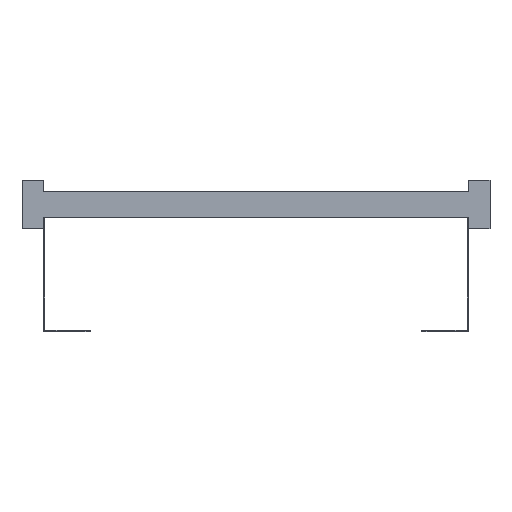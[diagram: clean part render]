
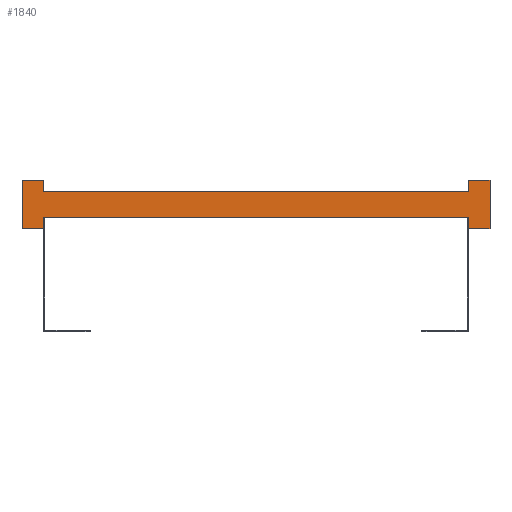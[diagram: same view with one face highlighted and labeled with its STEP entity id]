
A CAD part, front view. The second image highlights one B-rep face of the part: STEP entity #1840.
In plain terms, the highlighted planar face has unit normal (0, -1, 0).
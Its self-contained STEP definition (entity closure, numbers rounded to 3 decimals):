
#113=DIRECTION('',(0.,0.,1.));
#114=VECTOR('',#113,13.5);
#115=CARTESIAN_POINT('',(250.,0.,-28.5));
#116=LINE('',#115,#114);
#117=DIRECTION('',(0.,0.,-1.));
#118=VECTOR('',#117,13.5);
#119=CARTESIAN_POINT('',(-250.,0.,-15.));
#120=LINE('',#119,#118);
#121=DIRECTION('',(-1.,0.,0.));
#122=VECTOR('',#121,25.);
#123=CARTESIAN_POINT('',(-250.,0.,-28.5));
#124=LINE('',#123,#122);
#125=DIRECTION('',(0.,0.,1.));
#126=VECTOR('',#125,57.);
#127=CARTESIAN_POINT('',(-275.,0.,-28.5));
#128=LINE('',#127,#126);
#129=DIRECTION('',(1.,0.,0.));
#130=VECTOR('',#129,25.);
#131=CARTESIAN_POINT('',(-275.,0.,28.5));
#132=LINE('',#131,#130);
#133=DIRECTION('',(0.,0.,-1.));
#134=VECTOR('',#133,13.5);
#135=CARTESIAN_POINT('',(-250.,0.,28.5));
#136=LINE('',#135,#134);
#137=DIRECTION('',(0.,0.,1.));
#138=VECTOR('',#137,13.5);
#139=CARTESIAN_POINT('',(250.,0.,15.));
#140=LINE('',#139,#138);
#141=DIRECTION('',(1.,0.,0.));
#142=VECTOR('',#141,25.);
#143=CARTESIAN_POINT('',(250.,0.,28.5));
#144=LINE('',#143,#142);
#145=DIRECTION('',(0.,0.,-1.));
#146=VECTOR('',#145,57.);
#147=CARTESIAN_POINT('',(275.,0.,28.5));
#148=LINE('',#147,#146);
#149=DIRECTION('',(-1.,0.,0.));
#150=VECTOR('',#149,25.);
#151=CARTESIAN_POINT('',(275.,0.,-28.5));
#152=LINE('',#151,#150);
#1377=DIRECTION('',(1.,0.,0.));
#1378=VECTOR('',#1377,500.);
#1379=CARTESIAN_POINT('',(-250.,0.,-15.));
#1380=LINE('',#1379,#1378);
#1389=DIRECTION('',(1.,0.,0.));
#1390=VECTOR('',#1389,500.);
#1391=CARTESIAN_POINT('',(-250.,0.,15.));
#1392=LINE('',#1391,#1390);
#1393=CARTESIAN_POINT('',(-275.,0.,28.5));
#1394=CARTESIAN_POINT('',(-250.,0.,28.5));
#1395=VERTEX_POINT('',#1393);
#1396=VERTEX_POINT('',#1394);
#1397=CARTESIAN_POINT('',(-250.,0.,-28.5));
#1398=CARTESIAN_POINT('',(-275.,0.,-28.5));
#1399=VERTEX_POINT('',#1397);
#1400=VERTEX_POINT('',#1398);
#1401=CARTESIAN_POINT('',(275.,0.,28.5));
#1402=CARTESIAN_POINT('',(275.,0.,-28.5));
#1403=VERTEX_POINT('',#1401);
#1404=VERTEX_POINT('',#1402);
#1405=CARTESIAN_POINT('',(250.,0.,-28.5));
#1406=VERTEX_POINT('',#1405);
#1407=CARTESIAN_POINT('',(250.,0.,28.5));
#1408=VERTEX_POINT('',#1407);
#1425=CARTESIAN_POINT('',(-250.,0.,-15.));
#1427=VERTEX_POINT('',#1425);
#1429=CARTESIAN_POINT('',(-250.,0.,15.));
#1431=VERTEX_POINT('',#1429);
#1433=CARTESIAN_POINT('',(250.,0.,-15.));
#1435=VERTEX_POINT('',#1433);
#1437=CARTESIAN_POINT('',(250.,0.,15.));
#1439=VERTEX_POINT('',#1437);
#1809=CARTESIAN_POINT('',(0.,0.,0.));
#1810=DIRECTION('',(0.,1.,0.));
#1811=DIRECTION('',(1.,0.,0.));
#1812=AXIS2_PLACEMENT_3D('',#1809,#1810,#1811);
#1813=PLANE('',#1812);
#1815=ORIENTED_EDGE('',*,*,#1814,.T.);
#1817=ORIENTED_EDGE('',*,*,#1816,.F.);
#1819=ORIENTED_EDGE('',*,*,#1818,.T.);
#1821=ORIENTED_EDGE('',*,*,#1820,.T.);
#1823=ORIENTED_EDGE('',*,*,#1822,.T.);
#1825=ORIENTED_EDGE('',*,*,#1824,.T.);
#1827=ORIENTED_EDGE('',*,*,#1826,.T.);
#1829=ORIENTED_EDGE('',*,*,#1828,.T.);
#1831=ORIENTED_EDGE('',*,*,#1830,.T.);
#1833=ORIENTED_EDGE('',*,*,#1832,.T.);
#1835=ORIENTED_EDGE('',*,*,#1834,.T.);
#1837=ORIENTED_EDGE('',*,*,#1836,.T.);
#1838=EDGE_LOOP('',(#1815,#1817,#1819,#1821,#1823,#1825,#1827,#1829,#1831,#1833,
#1835,#1837));
#1839=FACE_OUTER_BOUND('',#1838,.F.);
#1814=EDGE_CURVE('',#1406,#1435,#116,.T.);
#1816=EDGE_CURVE('',#1427,#1435,#1380,.T.);
#1818=EDGE_CURVE('',#1427,#1399,#120,.T.);
#1820=EDGE_CURVE('',#1399,#1400,#124,.T.);
#1822=EDGE_CURVE('',#1400,#1395,#128,.T.);
#1824=EDGE_CURVE('',#1395,#1396,#132,.T.);
#1826=EDGE_CURVE('',#1396,#1431,#136,.T.);
#1828=EDGE_CURVE('',#1431,#1439,#1392,.T.);
#1830=EDGE_CURVE('',#1439,#1408,#140,.T.);
#1832=EDGE_CURVE('',#1408,#1403,#144,.T.);
#1834=EDGE_CURVE('',#1403,#1404,#148,.T.);
#1836=EDGE_CURVE('',#1404,#1406,#152,.T.);
#1840=ADVANCED_FACE('',(#1839),#1813,.F.);
